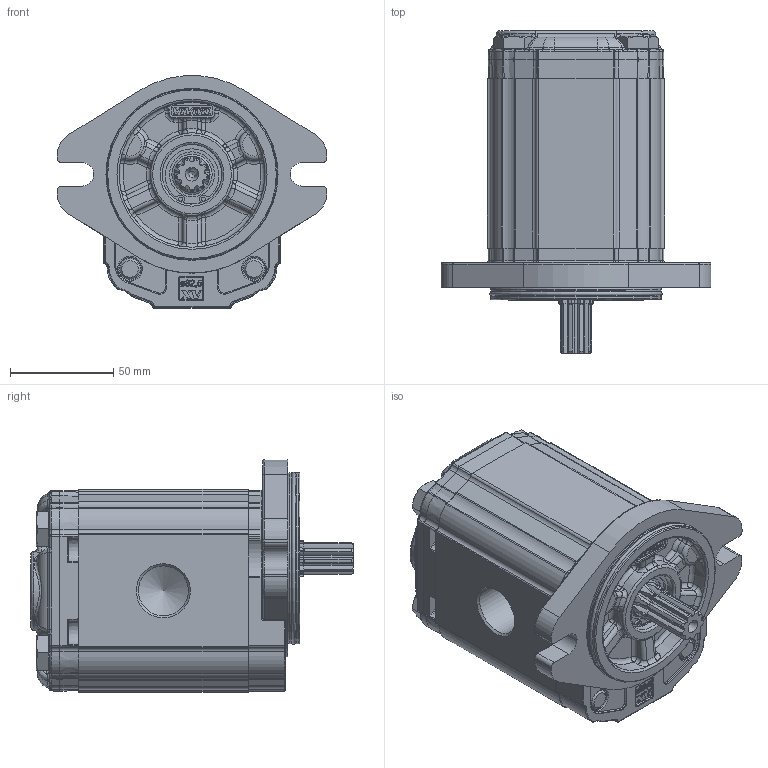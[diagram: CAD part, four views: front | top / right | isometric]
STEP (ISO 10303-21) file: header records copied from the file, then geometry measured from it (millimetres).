
FILE_DESCRIPTION(/* description */ ('Unknown'),/* implementation_level */ '2;1');
FILE_NAME(/* name */ 'X2P5751IDCA',/* time_stamp */ '2020-09-21T11:44:56+02:00',/* author */ ('Unknown'),/* organization */ ('Unknown'),/* preprocessor_version */ 'ST-DEVELOPER v16.7',/* originating_system */ 'DEX',/* authorisation */ $);
FILE_SCHEMA (('AP242_MANAGED_MODEL_BASED_3D_ENGINEERING_MIM_LF { 1 0 10303 442 1 1 4 }','AUTOMOTIVE_DESIGN {1 0 10303 214 3 1 1}'));
Products named in the file (5): X2P5751IDCA; X2P51; 2I; X2DCH82; XP219-A
Assembly tree (4 placements, depth 2):
  X2P5751IDCA
    X2P51
    2I
    X2DCH82
    XP219-A
Bounding box: 130.38 x 155.7 x 112.3 mm (x, y, z)
Volume: 928655 mm3; surface area: 115195.3 mm2
Topology: 4 solids, 5 shells, 2195 faces, 5407 edges, 3280 vertices
Faces by surface type: cylinder 649, plane 589, bspline 570, torus 246, cone 103, sphere 38
Full cylindrical faces by diameter (mm): 2 x2, 10 x4, 10.5 x4, 11 x2, 16 x4, 17.42 x1, 17.48 x2, 18.724 x1, 20.595 x1, 21.741 x1, 24.117 x1, 25.834 x1, 28.56 x1, 28.57 x1, 28.8 x1, 30.291 x1, 30.4 x1, 79.6 x2, 82.5 x2
Entity records: 100888 total; most frequent: CARTESIAN_POINT 39076, ORIENTED_EDGE 10468, DIRECTION 8739, EDGE_CURVE 5234, AXIS2_PLACEMENT_3D 3323, VERTEX_POINT 3228, FACE_BOUND 2376, EDGE_LOOP 2372
